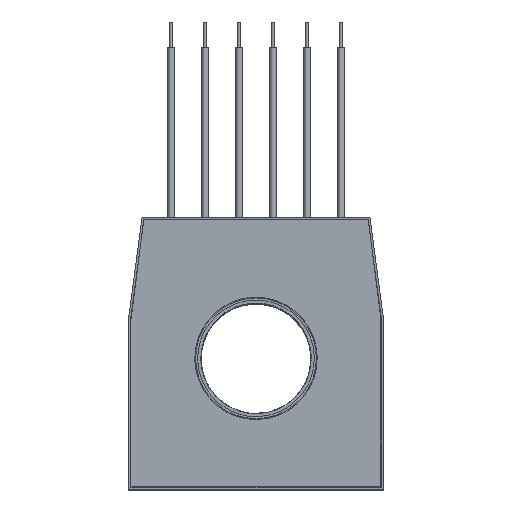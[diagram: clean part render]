
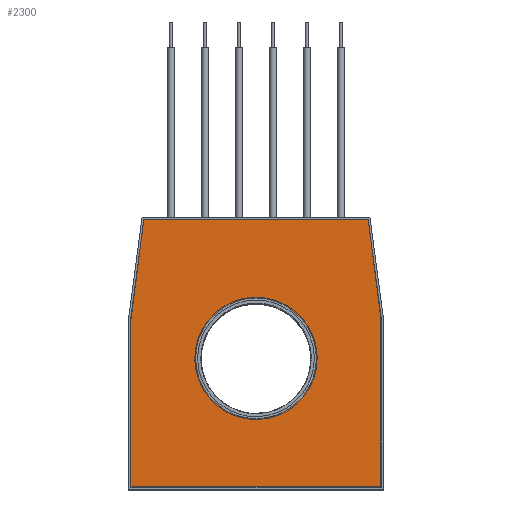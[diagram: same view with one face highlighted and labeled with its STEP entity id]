
A CAD part, top view. The second image highlights one B-rep face of the part: STEP entity #2300.
In plain terms, the highlighted planar face has unit normal (0, 0, 1).
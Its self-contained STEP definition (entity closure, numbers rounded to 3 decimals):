
#2300=ADVANCED_FACE('',(#3708,#3710),#3712,.T.);
#3708=FACE_BOUND('',#3709,.T.);
#3709=EDGE_LOOP('',(#4550,#4551,#4552,#4553,#4554,#4555));
#3710=FACE_BOUND('',#3711,.T.);
#3711=EDGE_LOOP('',(#4556));
#3712=PLANE('',#3713);
#3713=AXIS2_PLACEMENT_3D('',#3714,#3715,#3716);
#3714=CARTESIAN_POINT('',(0.,0.,5.));
#3715=DIRECTION('',(0.,0.,1.));
#3716=DIRECTION('',(1.,0.,0.));
#4550=ORIENTED_EDGE('',*,*,#4965,.T.);
#4551=ORIENTED_EDGE('',*,*,#4966,.T.);
#4552=ORIENTED_EDGE('',*,*,#4967,.T.);
#4553=ORIENTED_EDGE('',*,*,#4968,.T.);
#4554=ORIENTED_EDGE('',*,*,#4969,.T.);
#4555=ORIENTED_EDGE('',*,*,#4970,.T.);
#4556=ORIENTED_EDGE('',*,*,#4971,.T.);
#4965=EDGE_CURVE('',#5627,#5628,#5629,.T.);
#4966=EDGE_CURVE('',#5628,#5630,#5631,.T.);
#4967=EDGE_CURVE('',#5630,#5632,#5633,.T.);
#4968=EDGE_CURVE('',#5632,#5634,#5635,.T.);
#4969=EDGE_CURVE('',#5634,#5636,#5637,.T.);
#4970=EDGE_CURVE('',#5636,#5627,#5638,.T.);
#4971=EDGE_CURVE('',#5639,#5639,#5640,.F.);
#5627=VERTEX_POINT('',#7155);
#5628=VERTEX_POINT('',#7156);
#5629=LINE('',#7157,#7158);
#5630=VERTEX_POINT('',#7160);
#5631=LINE('',#7161,#7162);
#5632=VERTEX_POINT('',#7164);
#5633=LINE('',#7165,#7166);
#5634=VERTEX_POINT('',#7168);
#5635=LINE('',#7169,#7170);
#5636=VERTEX_POINT('',#7172);
#5637=LINE('',#7173,#7174);
#5638=LINE('',#7176,#7177);
#5639=VERTEX_POINT('',#7179);
#5640=CIRCLE('',#7180,35.5);
#7155=CARTESIAN_POINT('',(-73.5,19.815,5.));
#7156=CARTESIAN_POINT('',(-73.5,-78.5,5.));
#7157=CARTESIAN_POINT('',(-73.5,19.815,5.));
#7158=VECTOR('',#7159,1.);
#7159=DIRECTION('',(0.,-1.,0.));
#7160=CARTESIAN_POINT('',(73.5,-78.5,5.));
#7161=CARTESIAN_POINT('',(-73.5,-78.5,5.));
#7162=VECTOR('',#7163,1.);
#7163=DIRECTION('',(1.,0.,0.));
#7164=CARTESIAN_POINT('',(73.5,19.815,5.));
#7165=CARTESIAN_POINT('',(73.5,-78.5,5.));
#7166=VECTOR('',#7167,1.);
#7167=DIRECTION('',(0.,1.,0.));
#7168=CARTESIAN_POINT('',(66.,78.5,5.));
#7169=CARTESIAN_POINT('',(73.5,19.815,5.));
#7170=VECTOR('',#7171,1.);
#7171=DIRECTION('',(-0.127,0.992,0.));
#7172=CARTESIAN_POINT('',(-66.,78.5,5.));
#7173=CARTESIAN_POINT('',(66.,78.5,5.));
#7174=VECTOR('',#7175,1.);
#7175=DIRECTION('',(-1.,0.,0.));
#7176=CARTESIAN_POINT('',(-66.,78.5,5.));
#7177=VECTOR('',#7178,1.);
#7178=DIRECTION('',(-0.127,-0.992,0.));
#7179=CARTESIAN_POINT('',(35.5,-3.,5.));
#7180=AXIS2_PLACEMENT_3D('',#7181,#7182,#7183);
#7181=CARTESIAN_POINT('',(0.,-3.,5.));
#7182=DIRECTION('',(0.,0.,1.));
#7183=DIRECTION('',(1.,0.,0.));
